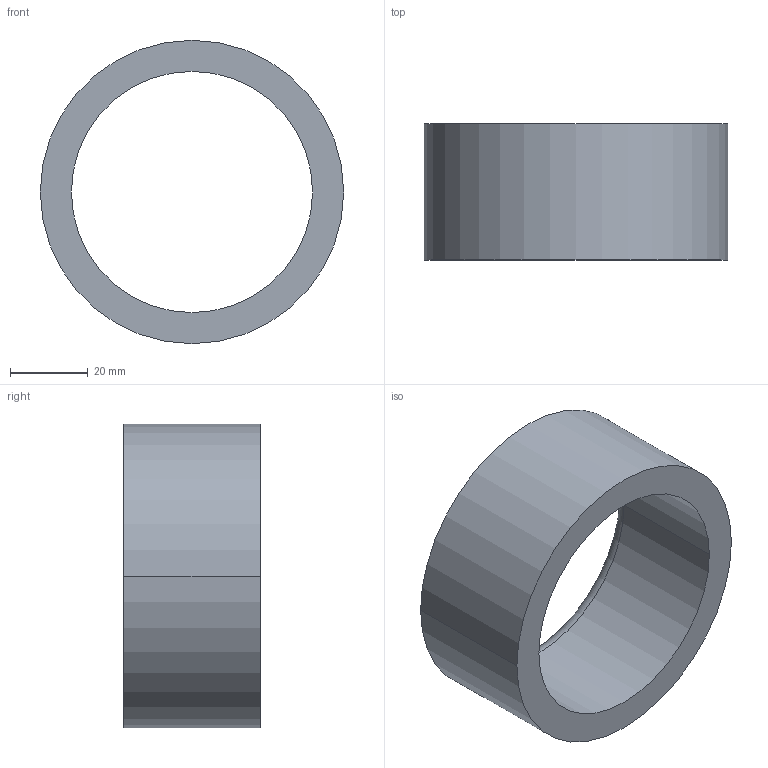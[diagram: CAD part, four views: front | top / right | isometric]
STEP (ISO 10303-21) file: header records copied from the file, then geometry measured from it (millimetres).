
FILE_DESCRIPTION (( 'STEP AP203' ), '1' );
FILE_NAME ('30800.WPP78M62.0.step', '2019-01-23T23:04:48', ( '' ), ( '' ), 'SwSTEP 2.0', 'SolidWorks 2017', '' );
FILE_SCHEMA (( 'CONFIG_CONTROL_DESIGN' ));
Length unit declared in the file: millimetre
Products named in the file (1): 30800.WPP78M62.0
Bounding box: 78 x 35 x 78 mm (x, y, z)
Volume: 60887.1 mm3; surface area: 18585.1 mm2
Topology: 1 solids, 1 shells, 8 faces, 16 edges, 10 vertices
Faces by surface type: cylinder 4, torus 2, plane 2
Entity records: 297 total; most frequent: DIRECTION 46, CARTESIAN_POINT 35, ORIENTED_EDGE 32, AXIS2_PLACEMENT_3D 21, EDGE_CURVE 16, CIRCLE 12, VERTEX_POINT 10, EDGE_LOOP 10
